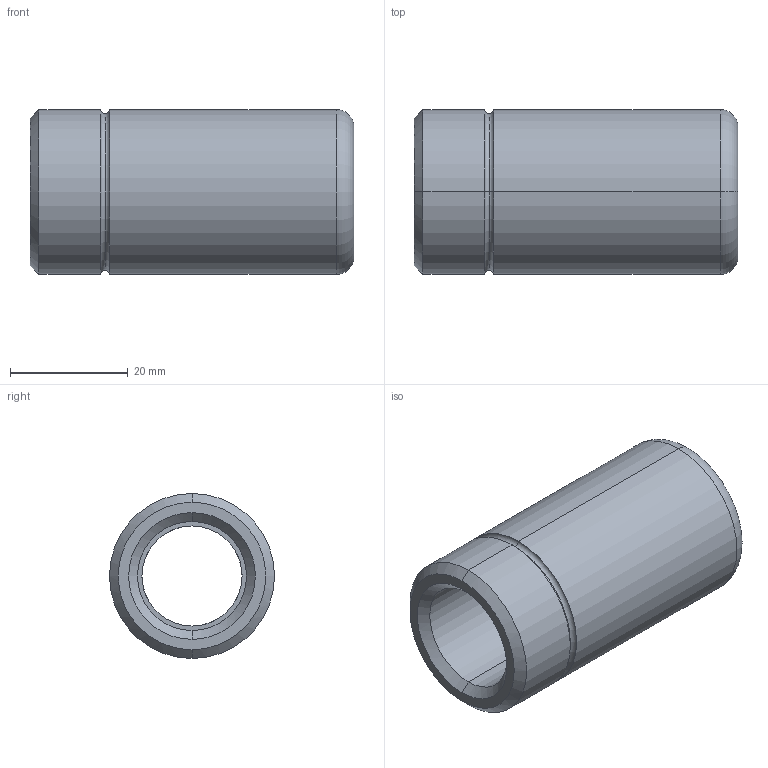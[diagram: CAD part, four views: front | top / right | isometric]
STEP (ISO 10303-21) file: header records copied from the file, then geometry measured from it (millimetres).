
FILE_DESCRIPTION(('CATIA V5 STEP Exchange'),'2;1');
FILE_NAME('C:\Users\Utente\Desktop\IO LAVORO\3D X SITO CF\X SITO\343-348\343-17 x 55.stp','2020-12-30T19:41:01+00:00',('none'),('none'),'CATIA Version 5 Release 20 GA (IN-10)','CATIA V5 STEP AP203','none');
FILE_SCHEMA(('CONFIG_CONTROL_DESIGN'));
Length unit declared in the file: millimetre
Products named in the file (1): 343-17 x 55
Bounding box: 55 x 28 x 28 mm (x, y, z)
Volume: 19971.1 mm3; surface area: 8562.4 mm2
Topology: 1 solids, 1 shells, 29 faces, 86 edges, 60 vertices
Faces by surface type: torus 12, cylinder 10, cone 4, plane 3
Entity records: 1154 total; most frequent: CARTESIAN_POINT 344, ORIENTED_EDGE 172, DIRECTION 132, AXIS2_PLACEMENT_3D 90, EDGE_CURVE 86, CIRCLE 60, VERTEX_POINT 60, EDGE_LOOP 32
